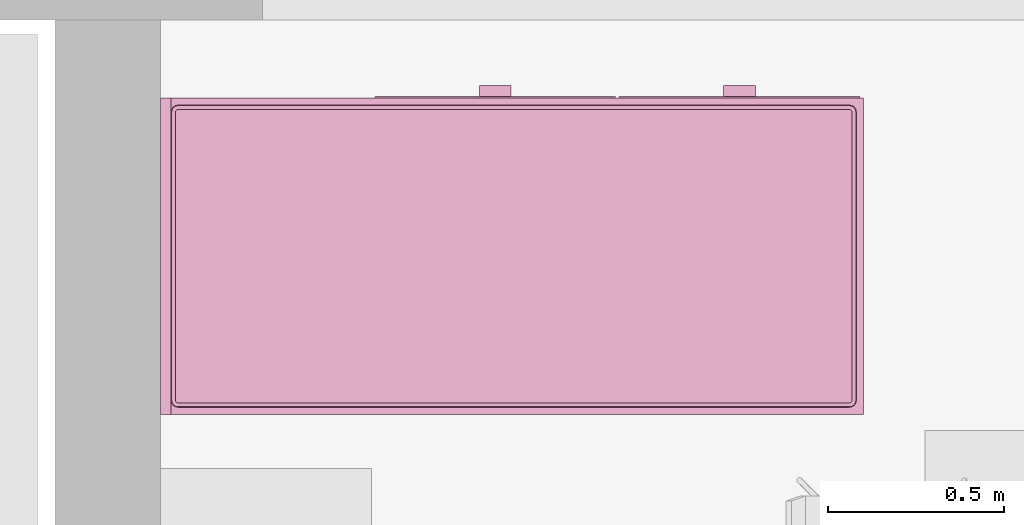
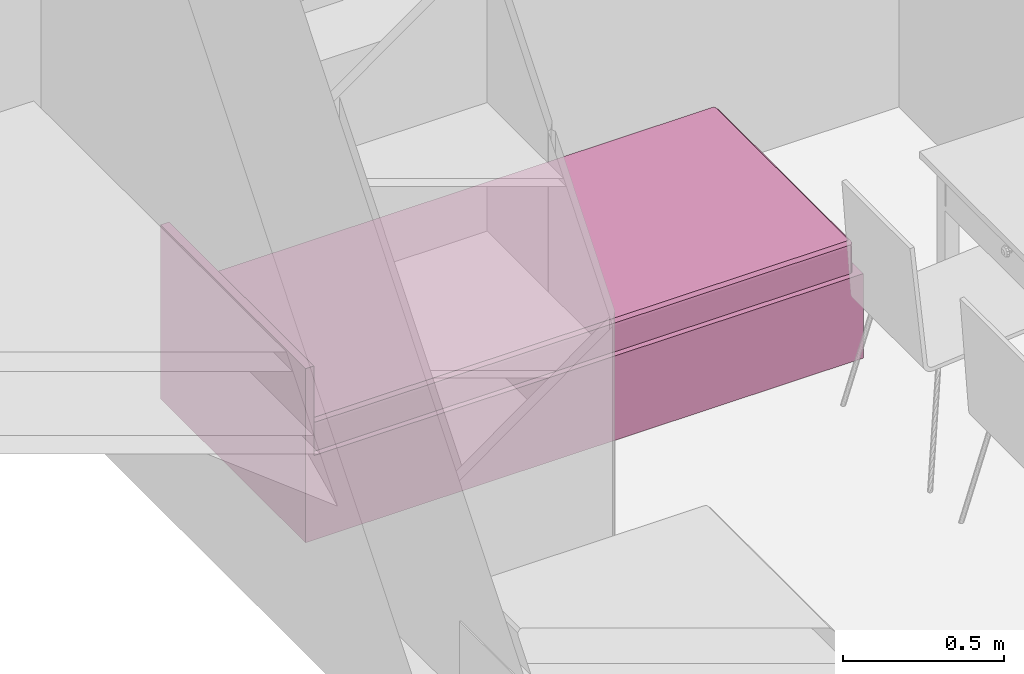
# One storey, part 135 of 172: 1 furnishing.
"""IFC2X3 building model written with IfcOpenShell, lengths in millimetres."""

from ifc_helpers import new_model, entity, si_unit, converted_unit, money_unit, direction, frame, origin_with_axes, place, context, subcontext, project, spatial, faceted_brep, source, transform, mapped, material, material_list, type_object, element, save


model = new_model("IFC2X3")

# Units and contexts
model_context = context("Model", 3, precision=1e-05, world=origin_with_axes(), true_north=direction((0.0, 1.0)))
body_context = subcontext(model_context, "Body", "Model", "MODEL_VIEW")
ifc_project = project(units=[si_unit("LENGTHUNIT", "METRE", prefix="MILLI"), si_unit("AREAUNIT", "SQUARE_METRE"), si_unit("VOLUMEUNIT", "CUBIC_METRE"), converted_unit("PLANEANGLEUNIT", "DEGREE", entity("IfcPlaneAngleMeasure", 0.0174532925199), si_unit("PLANEANGLEUNIT", "RADIAN"), dimensions=[0, 0, 0, 0, 0, 0, 0]), si_unit("SOLIDANGLEUNIT", "STERADIAN"), money_unit("USD"), converted_unit("TIMEUNIT", "Year", entity("IfcTimeMeasure", 31556926.0), si_unit("TIMEUNIT", "SECOND"), dimensions=[0, 0, 0, 0, 0, 0, 0]), si_unit("MASSUNIT", "GRAM"), si_unit("THERMODYNAMICTEMPERATUREUNIT", "DEGREE_CELSIUS"), si_unit("LUMINOUSINTENSITYUNIT", "LUMEN")], contexts=[model_context])

# Site, building, storey
site_placement = place(None, origin_with_axes())
site = spatial("IfcSite", under=ifc_project, at=site_placement, Name="Site", CompositionType="ELEMENT")
building_placement = place(site_placement, origin_with_axes())
building = spatial("IfcBuilding", under=site, at=building_placement, Name="Building", CompositionType="ELEMENT")
storey_placement = place(building_placement, frame((0.0, 0.0, 3200.0), z_axis=(0.0, 0.0, 1.0), x_axis=(1.0, 0.0, 0.0)))
storey = spatial("IfcBuildingStorey", under=building, at=storey_placement, Name="3KORRUS", CompositionType="ELEMENT", Elevation=3200.0)

# Furnishing
ifc_material = material(Name="Background")
ifc_material_list = material_list([ifc_material])
furnishing_element_type = type_object("IfcFurnishingElementType", Name="Bed 19")
shared_shape = source(origin_with_axes(), body_context, "Body", "Brep", [
    faceted_brep([(900.0, 1970.0, 0.0), (0.0, 1970.0, 0.0), (0.0, 2000.0, 0.0), (900.0, 2000.0, 0.0), (900.0, 1970.0, 660.0), (0.0, 1970.0, 660.0), (0.0, 2000.0, 660.0), (900.0, 2000.0, 660.0)], [[[0, 1, 2, 3]], [[1, 0, 4, 5]], [[2, 1, 5, 6]], [[3, 2, 6, 7]], [[0, 3, 7, 4]], [[5, 4, 7, 6]]]),
    faceted_brep([(900.0, 0.0, 0.0), (0.0, 0.0, 0.0), (0.0, 1970.0, 0.0), (900.0, 1970.0, 0.0), (900.0, 0.0, 320.0), (0.0, 0.0, 320.0), (0.0, 1970.0, 320.0), (900.0, 1970.0, 320.0)], [[[0, 1, 2, 3]], [[1, 0, 4, 5]], [[2, 1, 5, 6]], [[3, 2, 6, 7]], [[0, 3, 7, 4]], [[5, 4, 7, 6]]]),
    faceted_brep([(905.0, 10.0, 30.0), (900.0, 10.0, 30.0), (900.0, 695.0, 30.0), (905.0, 695.0, 30.0), (905.0, 10.0, 290.0), (900.0, 10.0, 290.0), (900.0, 695.0, 290.0), (905.0, 695.0, 290.0)], [[[0, 1, 2, 3]], [[1, 0, 4, 5]], [[2, 1, 5, 6]], [[3, 2, 6, 7]], [[0, 3, 7, 4]], [[5, 4, 7, 6]]]),
    faceted_brep([(935.0, 307.5, 150.0), (905.0, 307.5, 150.0), (905.0, 397.5, 150.0), (935.0, 397.5, 150.0), (935.0, 307.5, 170.0), (905.0, 307.5, 170.0), (905.0, 397.5, 170.0), (935.0, 397.5, 170.0)], [[[0, 1, 2, 3]], [[1, 0, 4, 5]], [[2, 1, 5, 6]], [[3, 2, 6, 7]], [[0, 3, 7, 4]], [[5, 4, 7, 6]]]),
    faceted_brep([(905.0, 705.0, 30.0), (900.0, 705.0, 30.0), (900.0, 1390.0, 30.0), (905.0, 1390.0, 30.0), (905.0, 705.0, 290.0), (900.0, 705.0, 290.0), (900.0, 1390.0, 290.0), (905.0, 1390.0, 290.0)], [[[0, 1, 2, 3]], [[1, 0, 4, 5]], [[2, 1, 5, 6]], [[3, 2, 6, 7]], [[0, 3, 7, 4]], [[5, 4, 7, 6]]]),
    faceted_brep([(935.0, 1002.5, 150.0), (905.0, 1002.5, 150.0), (905.0, 1092.5, 150.0), (935.0, 1092.5, 150.0), (935.0, 1002.5, 170.0), (905.0, 1002.5, 170.0), (905.0, 1092.5, 170.0), (935.0, 1092.5, 170.0)], [[[0, 1, 2, 3]], [[1, 0, 4, 5]], [[2, 1, 5, 6]], [[3, 2, 6, 7]], [[0, 3, 7, 4]], [[5, 4, 7, 6]]]),
    faceted_brep([(20.0, 40.0, 350.0), (20.0, 1950.0, 350.0), (21.522, 1957.654, 350.0), (25.858, 1964.142, 350.0), (32.346, 1968.478, 350.0), (40.0, 1970.0, 350.0), (860.0, 1970.0, 350.0), (867.654, 1968.478, 350.0), (874.142, 1964.142, 350.0), (878.478, 1957.654, 350.0), (880.0, 1950.0, 350.0), (880.0, 40.0, 350.0), (878.478, 32.346, 350.0), (874.142, 25.858, 350.0), (867.654, 21.522, 350.0), (860.0, 20.0, 350.0), (40.0, 20.0, 350.0), (32.346, 21.522, 350.0), (25.858, 25.858, 350.0), (21.522, 32.346, 350.0), (20.0, 40.0, 420.0), (20.0, 1950.0, 420.0), (21.522, 1957.654, 420.0), (25.858, 1964.142, 420.0), (32.346, 1968.478, 420.0), (40.0, 1970.0, 420.0), (860.0, 1970.0, 420.0), (867.654, 1968.478, 420.0), (874.142, 1964.142, 420.0), (878.478, 1957.654, 420.0), (880.0, 1950.0, 420.0), (880.0, 40.0, 420.0), (878.478, 32.346, 420.0), (874.142, 25.858, 420.0), (867.654, 21.522, 420.0), (860.0, 20.0, 420.0), (40.0, 20.0, 420.0), (32.346, 21.522, 420.0), (25.858, 25.858, 420.0), (21.522, 32.346, 420.0), (21.522, 40.15, 427.654), (21.522, 1949.85, 427.654), (22.956, 1957.06, 427.654), (26.955, 1963.045, 427.654), (32.94, 1967.044, 427.654), (40.15, 1968.478, 427.654), (859.85, 1968.478, 427.654), (867.06, 1967.044, 427.654), (873.045, 1963.045, 427.654), (877.044, 1957.06, 427.654), (878.478, 1949.85, 427.654), (878.478, 40.15, 427.654), (877.044, 32.94, 427.654), (873.045, 26.955, 427.654), (867.06, 22.956, 427.654), (859.85, 21.522, 427.654), (40.15, 21.522, 427.654), (32.94, 22.956, 427.654), (26.955, 26.955, 427.654), (22.956, 32.94, 427.654), (32.346, 41.216, 438.478), (32.346, 1948.784, 438.478), (33.152, 1952.836, 438.478), (34.759, 1955.241, 438.478), (37.164, 1956.848, 438.478), (41.216, 1957.654, 438.478), (858.784, 1957.654, 438.478), (862.836, 1956.848, 438.478), (865.241, 1955.241, 438.478), (866.848, 1952.836, 438.478), (867.654, 1948.784, 438.478), (867.654, 41.216, 438.478), (866.848, 37.164, 438.478), (865.241, 34.759, 438.478), (862.836, 33.152, 438.478), (858.784, 32.346, 438.478), (41.216, 32.346, 438.478), (37.164, 33.152, 438.478), (34.759, 34.759, 438.478), (33.152, 37.164, 438.478), (40.0, 41.97, 440.0), (40.0, 1948.03, 440.0), (40.327, 1949.673, 440.0), (40.0, 1950.0, 439.924), (41.97, 1950.0, 440.0), (858.03, 1950.0, 440.0), (859.673, 1949.673, 440.0), (860.0, 1950.0, 439.924), (860.0, 1948.03, 440.0), (860.0, 41.97, 440.0), (859.673, 40.327, 440.0), (860.0, 40.0, 439.924), (858.03, 40.0, 440.0), (41.97, 40.0, 440.0), (40.327, 40.327, 440.0), (40.0, 40.0, 439.924)], [[[0, 1, 2, 3, 4, 5, 6, 7, 8, 9, 10, 11, 12, 13, 14, 15, 16, 17, 18, 19]], [[1, 0, 20, 21]], [[2, 1, 21, 22]], [[3, 2, 22, 23]], [[4, 3, 23, 24]], [[5, 4, 24, 25]], [[6, 5, 25, 26]], [[7, 6, 26, 27]], [[8, 7, 27, 28]], [[9, 8, 28, 29]], [[10, 9, 29, 30]], [[11, 10, 30, 31]], [[12, 11, 31, 32]], [[13, 12, 32, 33]], [[14, 13, 33, 34]], [[15, 14, 34, 35]], [[16, 15, 35, 36]], [[17, 16, 36, 37]], [[18, 17, 37, 38]], [[19, 18, 38, 39]], [[0, 19, 39, 20]], [[21, 20, 40, 41]], [[22, 21, 41, 42]], [[23, 22, 42, 43]], [[24, 23, 43, 44]], [[25, 24, 44, 45]], [[26, 25, 45, 46]], [[27, 26, 46, 47]], [[28, 27, 47, 48]], [[29, 28, 48, 49]], [[30, 29, 49, 50]], [[31, 30, 50, 51]], [[32, 31, 51, 52]], [[33, 32, 52, 53]], [[34, 33, 53, 54]], [[35, 34, 54, 55]], [[36, 35, 55, 56]], [[37, 36, 56, 57]], [[38, 37, 57, 58]], [[39, 38, 58, 59]], [[20, 39, 59, 40]], [[41, 40, 60, 61]], [[42, 41, 61, 62]], [[43, 42, 62, 63]], [[44, 43, 63, 64]], [[45, 44, 64, 65]], [[46, 45, 65, 66]], [[47, 46, 66, 67]], [[48, 47, 67, 68]], [[49, 48, 68, 69]], [[50, 49, 69, 70]], [[51, 50, 70, 71]], [[52, 51, 71, 72]], [[53, 52, 72, 73]], [[54, 53, 73, 74]], [[55, 54, 74, 75]], [[56, 55, 75, 76]], [[57, 56, 76, 77]], [[58, 57, 77, 78]], [[59, 58, 78, 79]], [[40, 59, 79, 60]], [[61, 60, 80, 81]], [[62, 61, 81, 82, 83]], [[63, 62, 83]], [[64, 63, 83]], [[65, 64, 83, 82, 84]], [[66, 65, 84, 85]], [[67, 66, 85, 86, 87]], [[68, 67, 87]], [[69, 68, 87]], [[70, 69, 87, 86, 88]], [[71, 70, 88, 89]], [[72, 71, 89, 90, 91]], [[73, 72, 91]], [[74, 73, 91]], [[75, 74, 91, 90, 92]], [[76, 75, 92, 93]], [[77, 76, 93, 94, 95]], [[78, 77, 95]], [[79, 78, 95]], [[60, 79, 95, 94, 80]], [[81, 80, 94, 93, 92, 90, 89, 88, 86, 85, 84, 82]]]),
    faceted_brep([(20.0, 40.0, 350.0), (21.522, 32.346, 350.0), (25.858, 25.858, 350.0), (32.346, 21.522, 350.0), (40.0, 20.0, 350.0), (860.0, 20.0, 350.0), (867.654, 21.522, 350.0), (874.142, 25.858, 350.0), (878.478, 32.346, 350.0), (880.0, 40.0, 350.0), (880.0, 1950.0, 350.0), (878.478, 1957.654, 350.0), (874.142, 1964.142, 350.0), (867.654, 1968.478, 350.0), (860.0, 1970.0, 350.0), (40.0, 1970.0, 350.0), (32.346, 1968.478, 350.0), (25.858, 1964.142, 350.0), (21.522, 1957.654, 350.0), (20.0, 1950.0, 350.0), (20.0, 40.0, 320.0), (21.522, 32.346, 320.0), (25.858, 25.858, 320.0), (32.346, 21.522, 320.0), (40.0, 20.0, 320.0), (860.0, 20.0, 320.0), (867.654, 21.522, 320.0), (874.142, 25.858, 320.0), (878.478, 32.346, 320.0), (880.0, 40.0, 320.0), (880.0, 1950.0, 320.0), (878.478, 1957.654, 320.0), (874.142, 1964.142, 320.0), (867.654, 1968.478, 320.0), (860.0, 1970.0, 320.0), (40.0, 1970.0, 320.0), (32.346, 1968.478, 320.0), (25.858, 1964.142, 320.0), (21.522, 1957.654, 320.0), (20.0, 1950.0, 320.0)], [[[0, 1, 2, 3, 4, 5, 6, 7, 8, 9, 10, 11, 12, 13, 14, 15, 16, 17, 18, 19]], [[0, 20, 21, 1]], [[1, 21, 22, 2]], [[2, 22, 23, 3]], [[3, 23, 24, 4]], [[4, 24, 25, 5]], [[5, 25, 26, 6]], [[6, 26, 27, 7]], [[7, 27, 28, 8]], [[8, 28, 29, 9]], [[9, 29, 30, 10]], [[10, 30, 31, 11]], [[11, 31, 32, 12]], [[12, 32, 33, 13]], [[13, 33, 34, 14]], [[14, 34, 35, 15]], [[15, 35, 36, 16]], [[16, 36, 37, 17]], [[17, 37, 38, 18]], [[18, 38, 39, 19]], [[19, 39, 20, 0]], [[20, 39, 38, 37, 36, 35, 34, 33, 32, 31, 30, 29, 28, 27, 26, 25, 24, 23, 22, 21]]]),
])
furnishing_placement = place(storey_placement, frame((-3990.29670331, -6261.45475692, 0.0), z_axis=(0.0, 0.0, 1.0), x_axis=(0.0, 1.0, 0.0)))
element("IfcFurnishingElement", 1, at=furnishing_placement, inside=storey, type_object=furnishing_element_type, material=ifc_material_list, Name="FU - 013", context=body_context, shape_type="MappedRepresentation", body=[
    mapped(shared_shape, transform((0.0, 0.0, 0.0))),
])

save(model, "model.ifc")
